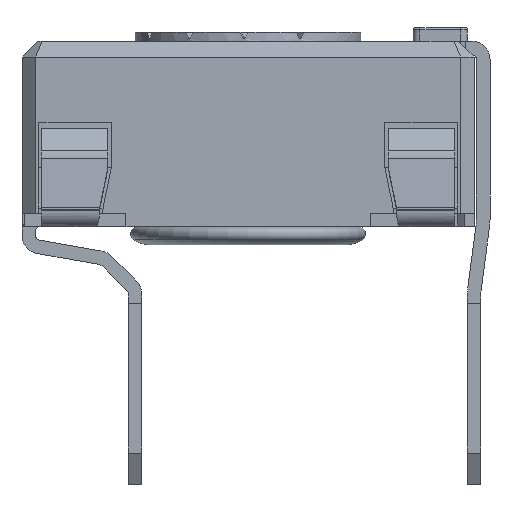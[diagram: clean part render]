
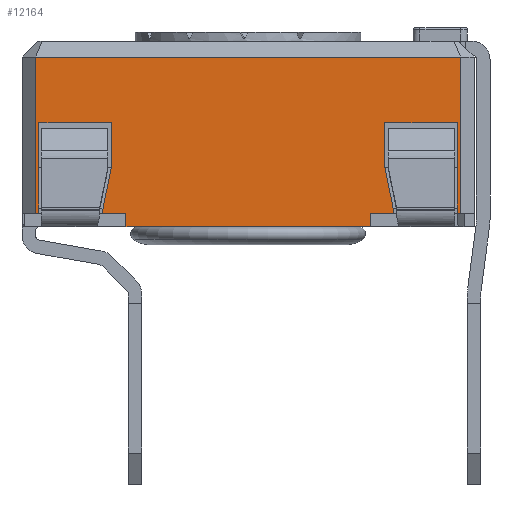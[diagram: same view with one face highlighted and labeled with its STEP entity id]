
A CAD part, left-side view. The second image highlights one B-rep face of the part: STEP entity #12164.
In plain terms, the highlighted planar face has unit normal (-1, 0, 0).
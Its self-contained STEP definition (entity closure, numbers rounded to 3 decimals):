
#982=FACE_OUTER_BOUND('',#1602,.T.);
#1602=EDGE_LOOP('',(#10180,#10181,#10182,#10183,#10184,#10185,#10186,#10187,
#10188,#10189,#10190,#10191,#10192,#10193,#10194,#10195,#10196,#10197));
#2454=LINE('',#18259,#3869);
#2485=LINE('',#18321,#3900);
#2491=LINE('',#18333,#3906);
#2512=LINE('',#18375,#3927);
#2680=LINE('',#18903,#4095);
#2723=LINE('',#18985,#4138);
#2726=LINE('',#18991,#4141);
#2871=LINE('',#19355,#4286);
#2873=LINE('',#19359,#4288);
#2877=LINE('',#19367,#4292);
#2880=LINE('',#19373,#4295);
#2887=LINE('',#19387,#4302);
#2889=LINE('',#19391,#4304);
#2895=LINE('',#19402,#4310);
#2896=LINE('',#19404,#4311);
#2897=LINE('',#19407,#4312);
#2898=LINE('',#19409,#4313);
#2899=LINE('',#19410,#4314);
#3869=VECTOR('',#14825,10.);
#3900=VECTOR('',#14860,10.);
#3906=VECTOR('',#14866,10.);
#3927=VECTOR('',#14889,10.);
#4095=VECTOR('',#15365,10.);
#4138=VECTOR('',#15440,10.);
#4141=VECTOR('',#15449,10.);
#4286=VECTOR('',#15802,10.);
#4288=VECTOR('',#15806,10.);
#4292=VECTOR('',#15812,10.);
#4295=VECTOR('',#15817,10.);
#4302=VECTOR('',#15832,10.);
#4304=VECTOR('',#15836,10.);
#4310=VECTOR('',#15848,10.);
#4311=VECTOR('',#15851,10.);
#4312=VECTOR('',#15854,10.);
#4313=VECTOR('',#15855,10.);
#4314=VECTOR('',#15856,10.);
#5173=VERTEX_POINT('',#18256);
#5174=VERTEX_POINT('',#18258);
#5202=VERTEX_POINT('',#18318);
#5203=VERTEX_POINT('',#18320);
#5208=VERTEX_POINT('',#18330);
#5209=VERTEX_POINT('',#18332);
#5228=VERTEX_POINT('',#18372);
#5229=VERTEX_POINT('',#18374);
#5380=VERTEX_POINT('',#18900);
#5381=VERTEX_POINT('',#18902);
#5495=VERTEX_POINT('',#19353);
#5496=VERTEX_POINT('',#19358);
#5499=VERTEX_POINT('',#19365);
#5501=VERTEX_POINT('',#19372);
#5504=VERTEX_POINT('',#19386);
#5505=VERTEX_POINT('',#19390);
#5508=VERTEX_POINT('',#19406);
#5509=VERTEX_POINT('',#19408);
#6579=EDGE_CURVE('',#5174,#5173,#2454,.T.);
#6610=EDGE_CURVE('',#5203,#5202,#2485,.T.);
#6616=EDGE_CURVE('',#5209,#5208,#2491,.T.);
#6637=EDGE_CURVE('',#5229,#5228,#2512,.T.);
#6883=EDGE_CURVE('',#5381,#5380,#2680,.T.);
#6926=EDGE_CURVE('',#5203,#5380,#2723,.T.);
#6929=EDGE_CURVE('',#5208,#5381,#2726,.T.);
#7108=EDGE_CURVE('',#5202,#5495,#2871,.T.);
#7110=EDGE_CURVE('',#5496,#5209,#2873,.T.);
#7114=EDGE_CURVE('',#5495,#5499,#2877,.T.);
#7117=EDGE_CURVE('',#5501,#5496,#2880,.T.);
#7124=EDGE_CURVE('',#5504,#5501,#2887,.T.);
#7126=EDGE_CURVE('',#5505,#5229,#2889,.T.);
#7132=EDGE_CURVE('',#5499,#5505,#2895,.T.);
#7133=EDGE_CURVE('',#5173,#5504,#2896,.T.);
#7134=EDGE_CURVE('',#5508,#5228,#2897,.T.);
#7135=EDGE_CURVE('',#5509,#5508,#2898,.T.);
#7136=EDGE_CURVE('',#5509,#5174,#2899,.T.);
#10180=ORIENTED_EDGE('',*,*,#7133,.T.);
#10181=ORIENTED_EDGE('',*,*,#7124,.T.);
#10182=ORIENTED_EDGE('',*,*,#7117,.T.);
#10183=ORIENTED_EDGE('',*,*,#7110,.T.);
#10184=ORIENTED_EDGE('',*,*,#6616,.T.);
#10185=ORIENTED_EDGE('',*,*,#6929,.T.);
#10186=ORIENTED_EDGE('',*,*,#6883,.T.);
#10187=ORIENTED_EDGE('',*,*,#6926,.F.);
#10188=ORIENTED_EDGE('',*,*,#6610,.T.);
#10189=ORIENTED_EDGE('',*,*,#7108,.T.);
#10190=ORIENTED_EDGE('',*,*,#7114,.T.);
#10191=ORIENTED_EDGE('',*,*,#7132,.T.);
#10192=ORIENTED_EDGE('',*,*,#7126,.T.);
#10193=ORIENTED_EDGE('',*,*,#6637,.T.);
#10194=ORIENTED_EDGE('',*,*,#7134,.F.);
#10195=ORIENTED_EDGE('',*,*,#7135,.F.);
#10196=ORIENTED_EDGE('',*,*,#7136,.T.);
#10197=ORIENTED_EDGE('',*,*,#6579,.T.);
#11355=PLANE('',#13053);
#12164=ADVANCED_FACE('',(#982),#11355,.T.);
#13053=AXIS2_PLACEMENT_3D('',#19405,#15852,#15853);
#14825=DIRECTION('',(0.,-1.,0.));
#14860=DIRECTION('',(0.,-1.,0.));
#14866=DIRECTION('',(0.,-1.,0.));
#14889=DIRECTION('',(0.,-1.,0.));
#15365=DIRECTION('',(0.,-1.,0.));
#15440=DIRECTION('',(0.,0.,-1.));
#15449=DIRECTION('',(0.,0.,-1.));
#15802=DIRECTION('',(0.,0.199,0.98));
#15806=DIRECTION('',(0.,0.199,-0.98));
#15812=DIRECTION('',(0.,0.,1.));
#15817=DIRECTION('',(0.,0.,-1.));
#15832=DIRECTION('',(0.,-1.,0.));
#15836=DIRECTION('',(0.,0.,-1.));
#15848=DIRECTION('',(0.,-1.,0.));
#15851=DIRECTION('',(0.,0.,1.));
#15852=DIRECTION('center_axis',(-1.,0.,0.));
#15853=DIRECTION('ref_axis',(0.,0.,1.));
#15854=DIRECTION('',(0.,0.,-1.));
#15855=DIRECTION('',(0.,-1.,0.));
#15856=DIRECTION('',(0.,0.,-1.));
#18256=CARTESIAN_POINT('',(-31.348,-8.365,-3.8));
#18258=CARTESIAN_POINT('',(-31.348,-8.29,-3.8));
#18259=CARTESIAN_POINT('',(-31.348,-17.69,-3.8));
#18318=CARTESIAN_POINT('',(-31.348,-16.219,-3.8));
#18320=CARTESIAN_POINT('',(-31.348,-15.69,-3.8));
#18321=CARTESIAN_POINT('',(-31.348,-9.762,-3.8));
#18330=CARTESIAN_POINT('',(-31.348,-10.29,-3.8));
#18332=CARTESIAN_POINT('',(-31.348,-9.762,-3.8));
#18333=CARTESIAN_POINT('',(-31.348,-9.762,-3.8));
#18372=CARTESIAN_POINT('',(-31.348,-17.69,-3.8));
#18374=CARTESIAN_POINT('',(-31.348,-17.615,-3.8));
#18375=CARTESIAN_POINT('',(-31.348,-17.69,-3.8));
#18900=CARTESIAN_POINT('',(-31.348,-15.69,-4.1));
#18902=CARTESIAN_POINT('',(-31.348,-10.29,-4.1));
#18903=CARTESIAN_POINT('',(-31.348,-16.219,-4.1));
#18985=CARTESIAN_POINT('',(-31.348,-15.69,-3.8));
#18991=CARTESIAN_POINT('',(-31.348,-10.29,-3.8));
#19353=CARTESIAN_POINT('',(-31.348,-16.015,-2.8));
#19355=CARTESIAN_POINT('',(-31.348,-16.219,-3.8));
#19358=CARTESIAN_POINT('',(-31.348,-9.965,-2.8));
#19359=CARTESIAN_POINT('',(-31.348,-9.965,-2.8));
#19365=CARTESIAN_POINT('',(-31.348,-16.015,-1.8));
#19367=CARTESIAN_POINT('',(-31.348,-16.015,-2.8));
#19372=CARTESIAN_POINT('',(-31.348,-9.965,-1.8));
#19373=CARTESIAN_POINT('',(-31.348,-9.965,-1.8));
#19386=CARTESIAN_POINT('',(-31.348,-8.365,-1.8));
#19387=CARTESIAN_POINT('',(-31.348,-10.64,-1.8));
#19390=CARTESIAN_POINT('',(-31.348,-17.615,-1.8));
#19391=CARTESIAN_POINT('',(-31.348,-17.615,-1.368));
#19402=CARTESIAN_POINT('',(-31.348,-10.64,-1.8));
#19404=CARTESIAN_POINT('',(-31.348,-8.365,-1.368));
#19405=CARTESIAN_POINT('Origin',(-31.348,-8.29,0.));
#19406=CARTESIAN_POINT('',(-31.348,-17.69,-0.35));
#19407=CARTESIAN_POINT('',(-31.348,-17.69,0.));
#19408=CARTESIAN_POINT('',(-31.348,-8.29,-0.35));
#19409=CARTESIAN_POINT('',(-31.348,-10.64,-0.35));
#19410=CARTESIAN_POINT('',(-31.348,-8.29,0.));
